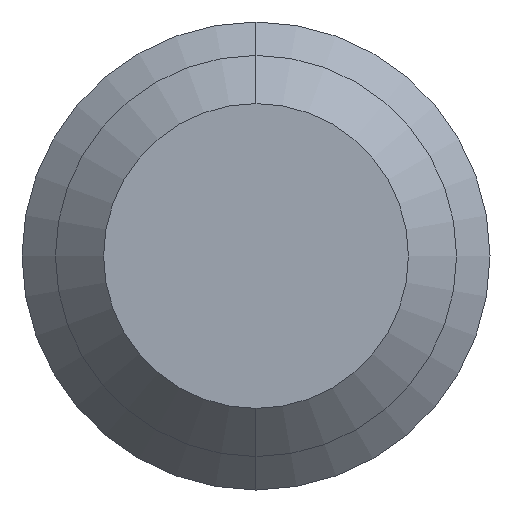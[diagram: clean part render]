
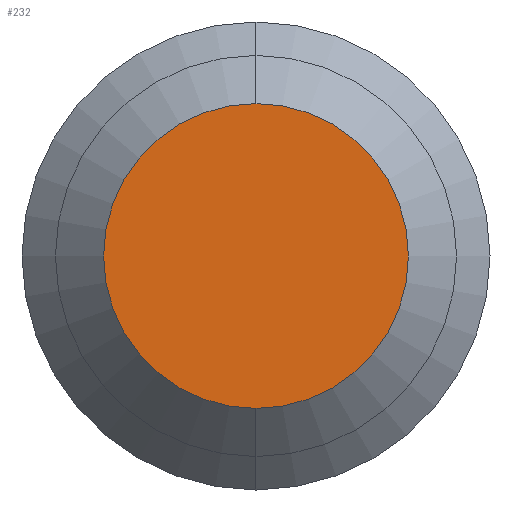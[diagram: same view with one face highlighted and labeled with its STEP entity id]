
A CAD part, left-side view. The second image highlights one B-rep face of the part: STEP entity #232.
In plain terms, the highlighted planar face has unit normal (-1, 0, 0).
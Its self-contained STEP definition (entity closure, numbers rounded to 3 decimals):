
#1 = PLANE ( 'NONE',  #218 ) ;
#6 = CARTESIAN_POINT ( 'NONE',  ( -43.491, 0., 3.619 ) ) ;
#22 = CARTESIAN_POINT ( 'NONE',  ( -43.491, 0., 0. ) ) ;
#43 = VERTEX_POINT ( 'NONE', #316 ) ;
#47 = DIRECTION ( 'NONE',  ( 1., 0., 0. ) ) ;
#76 = CARTESIAN_POINT ( 'NONE',  ( -43.491, 0., 0. ) ) ;
#82 = DIRECTION ( 'NONE',  ( 1., 0., 0. ) ) ;
#108 = CIRCLE ( 'NONE', #115, 3.619 ) ;
#115 = AXIS2_PLACEMENT_3D ( 'NONE', #263, #82, #301 ) ;
#138 = DIRECTION ( 'NONE',  ( 1., 0., 0. ) ) ;
#161 = CIRCLE ( 'NONE', #400, 3.619 ) ;
#168 = EDGE_CURVE ( 'NONE', #43, #281, #108, .T. ) ;
#192 = ORIENTED_EDGE ( 'NONE', *, *, #168, .F. ) ;
#217 = ORIENTED_EDGE ( 'NONE', *, *, #288, .F. ) ;
#218 = AXIS2_PLACEMENT_3D ( 'NONE', #76, #138, #322 ) ;
#232 = ADVANCED_FACE ( 'NONE', ( #341 ), #1, .F. ) ;
#258 = EDGE_LOOP ( 'NONE', ( #192, #217 ) ) ;
#263 = CARTESIAN_POINT ( 'NONE',  ( -43.491, 0., 0. ) ) ;
#281 = VERTEX_POINT ( 'NONE', #6 ) ;
#288 = EDGE_CURVE ( 'NONE', #281, #43, #161, .T. ) ;
#301 = DIRECTION ( 'NONE',  ( 0., 0., -1. ) ) ;
#316 = CARTESIAN_POINT ( 'NONE',  ( -43.491, 0., -3.619 ) ) ;
#322 = DIRECTION ( 'NONE',  ( 0., 0., -1. ) ) ;
#341 = FACE_OUTER_BOUND ( 'NONE', #258, .T. ) ;
#378 = DIRECTION ( 'NONE',  ( 0., 0., -1. ) ) ;
#400 = AXIS2_PLACEMENT_3D ( 'NONE', #22, #47, #378 ) ;
